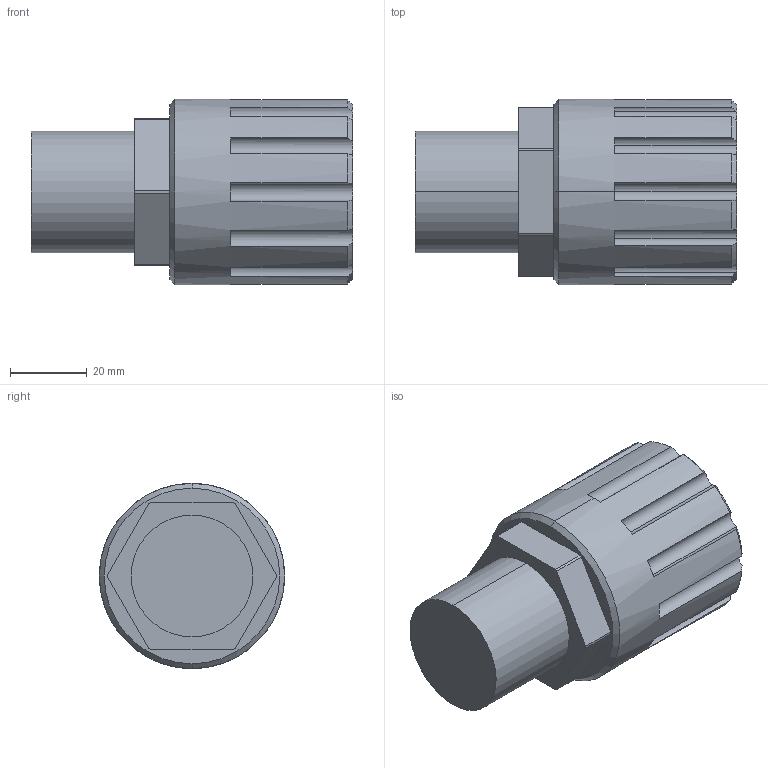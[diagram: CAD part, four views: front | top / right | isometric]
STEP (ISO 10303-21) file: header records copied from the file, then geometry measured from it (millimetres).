
FILE_DESCRIPTION (( 'STEP AP214' ), '1' );
FILE_NAME ('Fitting Flaretek Compatible 20.STEP', '2012-09-21T19:26:57', ( '' ), ( '' ), 'SwSTEP 2.0', 'SolidWorks 2012', '' );
FILE_SCHEMA (( 'AUTOMOTIVE_DESIGN' ));
Length unit declared in the file: inch
Products named in the file (1): Fitting Flaretek Compatible 20
Bounding box: 83.69 x 48.26 x 48.26 mm (x, y, z)
Volume: 107674.9 mm3; surface area: 16847.1 mm2
Topology: 1 solids, 1 shells, 66 faces, 181 edges, 120 vertices
Faces by surface type: cylinder 29, plane 23, cone 14
Entity records: 2465 total; most frequent: CARTESIAN_POINT 494, DIRECTION 383, ORIENTED_EDGE 362, EDGE_CURVE 181, AXIS2_PLACEMENT_3D 161, VERTEX_POINT 120, CIRCLE 94, EDGE_LOOP 69
